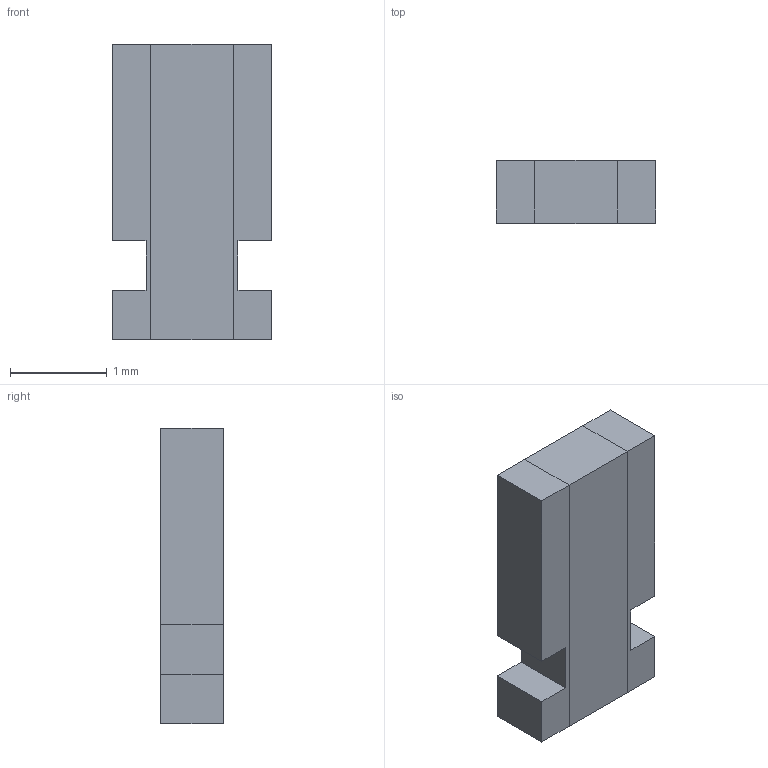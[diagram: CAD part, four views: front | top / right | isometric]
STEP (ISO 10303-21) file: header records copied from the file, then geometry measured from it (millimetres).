
FILE_DESCRIPTION(/* description */ (''),/* implementation_level */ '2;1');
FILE_NAME(/* name */ 'C:\Users\mulla\Documents\SEI Models\Inventor Files\CSSK\CSSK0612_stp.stp',/* time_stamp */ '2019-07-08T16:11:33-04:00',/* author */ ('mulla'),/* organization */ (''),/* preprocessor_version */ 'ST-DEVELOPER v16.1',/* originating_system */ 'Autodesk Inventor 2016',/* authorisation */ '');
FILE_SCHEMA (('AUTOMOTIVE_DESIGN { 1 0 10303 214 3 1 1 }'));
Length unit declared in the file: millimetre
Products named in the file (1): CSSK0612
Bounding box: 1.65 x 0.65 x 3.05 mm (x, y, z)
Volume: 3 mm3; surface area: 24.3 mm2
Topology: 3 solids, 3 shells, 26 faces, 60 edges, 40 vertices
Faces by surface type: plane 26
Entity records: 786 total; most frequent: CARTESIAN_POINT 127, ORIENTED_EDGE 120, DIRECTION 114, LINE 60, VECTOR 60, EDGE_CURVE 60, VERTEX_POINT 40, STYLED_ITEM 29
